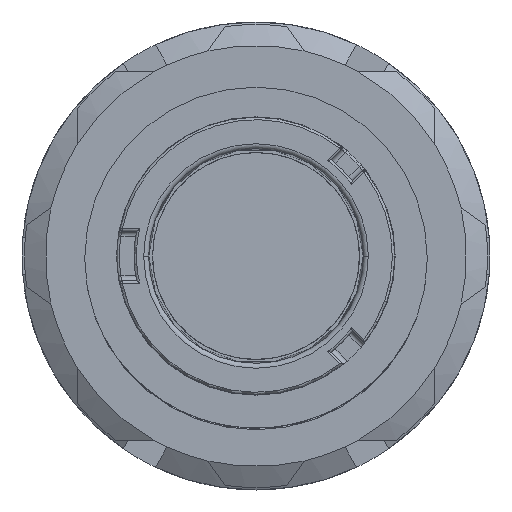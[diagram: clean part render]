
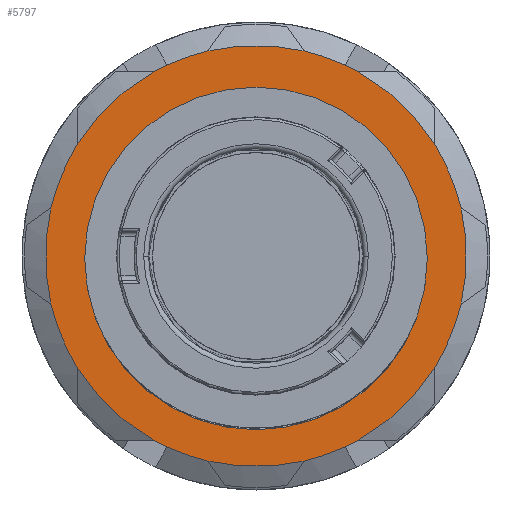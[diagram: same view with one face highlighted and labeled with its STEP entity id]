
A CAD part, left-side view. The second image highlights one B-rep face of the part: STEP entity #5797.
In plain terms, the highlighted planar face has unit normal (-1, 0, 0).
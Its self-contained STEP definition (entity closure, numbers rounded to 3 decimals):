
#1495=CARTESIAN_POINT('',(0.,9.4,
-9.4));
#1496=DIRECTION('',(1.,0.,0.));
#1497=DIRECTION('',(0.,0.85,0.527));
#1498=AXIS2_PLACEMENT_3D('',#1495,#1496,#1497);
#1500=CARTESIAN_POINT('',(0.,9.4,
-9.4));
#1501=DIRECTION('',(1.,0.,0.));
#1502=DIRECTION('',(0.,0.486,0.874));
#1503=AXIS2_PLACEMENT_3D('',#1500,#1501,#1502);
#1505=CARTESIAN_POINT('',(0.,9.4,
-9.4));
#1506=DIRECTION('',(1.,0.,0.));
#1507=DIRECTION('',(0.,0.228,0.974));
#1508=AXIS2_PLACEMENT_3D('',#1505,#1506,#1507);
#1510=CARTESIAN_POINT('',(0.,9.4,
-9.4));
#1511=DIRECTION('',(1.,0.,0.));
#1512=DIRECTION('',(0.,-0.228,0.974));
#1513=AXIS2_PLACEMENT_3D('',#1510,#1511,#1512);
#1515=CARTESIAN_POINT('',(0.,9.4,
-9.4));
#1516=DIRECTION('',(1.,0.,0.));
#1517=DIRECTION('',(0.,-0.486,0.874));
#1518=AXIS2_PLACEMENT_3D('',#1515,#1516,#1517);
#1520=CARTESIAN_POINT('',(0.,9.4,
-9.4));
#1521=DIRECTION('',(1.,0.,0.));
#1522=DIRECTION('',(0.,-0.85,0.527));
#1523=AXIS2_PLACEMENT_3D('',#1520,#1521,#1522);
#1525=CARTESIAN_POINT('',(0.,9.4,
-9.4));
#1526=DIRECTION('',(1.,0.,0.));
#1527=DIRECTION('',(0.,-0.974,0.228));
#1528=AXIS2_PLACEMENT_3D('',#1525,#1526,#1527);
#1530=CARTESIAN_POINT('',(0.,9.4,
-9.4));
#1531=DIRECTION('',(1.,0.,0.));
#1532=DIRECTION('',(0.,-0.974,-0.228));
#1533=AXIS2_PLACEMENT_3D('',#1530,#1531,#1532);
#1535=CARTESIAN_POINT('',(0.,9.4,
-9.4));
#1536=DIRECTION('',(1.,0.,0.));
#1537=DIRECTION('',(0.,-0.85,-0.527));
#1538=AXIS2_PLACEMENT_3D('',#1535,#1536,#1537);
#1540=CARTESIAN_POINT('',(0.,9.4,
-9.4));
#1541=DIRECTION('',(1.,0.,0.));
#1542=DIRECTION('',(0.,-0.486,-0.874));
#1543=AXIS2_PLACEMENT_3D('',#1540,#1541,#1542);
#1545=CARTESIAN_POINT('',(0.,9.4,
-9.4));
#1546=DIRECTION('',(1.,0.,0.));
#1547=DIRECTION('',(0.,-0.228,-0.974));
#1548=AXIS2_PLACEMENT_3D('',#1545,#1546,#1547);
#1550=CARTESIAN_POINT('',(0.,9.4,
-9.4));
#1551=DIRECTION('',(1.,0.,0.));
#1552=DIRECTION('',(0.,0.228,-0.974));
#1553=AXIS2_PLACEMENT_3D('',#1550,#1551,#1552);
#1555=CARTESIAN_POINT('',(0.,9.4,
-9.4));
#1556=DIRECTION('',(1.,0.,0.));
#1557=DIRECTION('',(0.,0.486,-0.874));
#1558=AXIS2_PLACEMENT_3D('',#1555,#1556,#1557);
#1560=CARTESIAN_POINT('',(0.,9.4,
-9.4));
#1561=DIRECTION('',(1.,0.,0.));
#1562=DIRECTION('',(0.,0.85,-0.527));
#1563=AXIS2_PLACEMENT_3D('',#1560,#1561,#1562);
#1565=CARTESIAN_POINT('',(0.,9.4,
-9.4));
#1566=DIRECTION('',(1.,0.,0.));
#1567=DIRECTION('',(0.,0.974,-0.228));
#1568=AXIS2_PLACEMENT_3D('',#1565,#1566,#1567);
#1570=CARTESIAN_POINT('',(0.,9.4,
-9.4));
#1571=DIRECTION('',(1.,0.,0.));
#1572=DIRECTION('',(0.,0.974,0.228));
#1573=AXIS2_PLACEMENT_3D('',#1570,#1571,#1572);
#1575=CARTESIAN_POINT('',(0.,9.4,-9.5));
#1576=DIRECTION('',(-1.,0.,0.));
#1577=DIRECTION('',(0.,-1.,0.));
#1578=AXIS2_PLACEMENT_3D('',#1575,#1576,#1577);
#1580=CARTESIAN_POINT('',(0.,9.4,-9.5));
#1581=DIRECTION('',(-1.,0.,0.));
#1582=DIRECTION('',(0.,1.,0.));
#1583=AXIS2_PLACEMENT_3D('',#1580,#1581,#1582);
#3848=CARTESIAN_POINT('',(0.,11.35,
-1.075));
#3850=VERTEX_POINT('',#3848);
#3851=CARTESIAN_POINT('',(0.,13.556,
-1.928));
#3852=VERTEX_POINT('',#3851);
#3857=CARTESIAN_POINT('',(0.,7.45,
-1.075));
#3858=VERTEX_POINT('',#3857);
#3861=CARTESIAN_POINT('',(0.,16.665,
-4.892));
#3862=VERTEX_POINT('',#3861);
#3863=CARTESIAN_POINT('',(0.,5.243,
-1.928));
#3864=VERTEX_POINT('',#3863);
#3865=CARTESIAN_POINT('',(0.,2.134,
-4.892));
#3866=VERTEX_POINT('',#3865);
#3867=CARTESIAN_POINT('',(0.,1.075,
-7.45));
#3868=VERTEX_POINT('',#3867);
#3869=CARTESIAN_POINT('',(0.,1.075,
-11.35));
#3870=VERTEX_POINT('',#3869);
#3871=CARTESIAN_POINT('',(0.,2.134,
-13.907));
#3872=VERTEX_POINT('',#3871);
#3873=CARTESIAN_POINT('',(0.,5.243,
-16.871));
#3874=VERTEX_POINT('',#3873);
#3875=CARTESIAN_POINT('',(0.,7.45,
-17.724));
#3876=VERTEX_POINT('',#3875);
#3877=CARTESIAN_POINT('',(0.,11.35,
-17.724));
#3878=VERTEX_POINT('',#3877);
#3879=CARTESIAN_POINT('',(0.,13.556,
-16.871));
#3880=VERTEX_POINT('',#3879);
#3881=CARTESIAN_POINT('',(0.,16.665,
-13.907));
#3882=VERTEX_POINT('',#3881);
#3883=CARTESIAN_POINT('',(0.,17.724,
-11.35));
#3884=VERTEX_POINT('',#3883);
#3885=CARTESIAN_POINT('',(0.,17.724,
-7.45));
#3886=VERTEX_POINT('',#3885);
#3887=CARTESIAN_POINT('',(0.,2.446,-9.5));
#3888=CARTESIAN_POINT('',(0.,16.354,-9.5));
#3889=VERTEX_POINT('',#3887);
#3890=VERTEX_POINT('',#3888);
#5754=CARTESIAN_POINT('',(0.,9.4,
-9.4));
#5755=DIRECTION('',(1.,0.,0.));
#5756=DIRECTION('',(0.,-1.,0.));
#5757=AXIS2_PLACEMENT_3D('',#5754,#5755,#5756);
#5758=PLANE('',#5757);
#5760=ORIENTED_EDGE('',*,*,#5759,.T.);
#5761=ORIENTED_EDGE('',*,*,#5724,.T.);
#5762=ORIENTED_EDGE('',*,*,#5744,.T.);
#5764=ORIENTED_EDGE('',*,*,#5763,.T.);
#5766=ORIENTED_EDGE('',*,*,#5765,.T.);
#5768=ORIENTED_EDGE('',*,*,#5767,.T.);
#5770=ORIENTED_EDGE('',*,*,#5769,.T.);
#5772=ORIENTED_EDGE('',*,*,#5771,.T.);
#5774=ORIENTED_EDGE('',*,*,#5773,.T.);
#5776=ORIENTED_EDGE('',*,*,#5775,.T.);
#5778=ORIENTED_EDGE('',*,*,#5777,.T.);
#5780=ORIENTED_EDGE('',*,*,#5779,.T.);
#5782=ORIENTED_EDGE('',*,*,#5781,.T.);
#5784=ORIENTED_EDGE('',*,*,#5783,.T.);
#5786=ORIENTED_EDGE('',*,*,#5785,.T.);
#5788=ORIENTED_EDGE('',*,*,#5787,.T.);
#5789=EDGE_LOOP('',(#5760,#5761,#5762,#5764,#5766,#5768,#5770,#5772,#5774,#5776,
#5778,#5780,#5782,#5784,#5786,#5788));
#5790=FACE_OUTER_BOUND('',#5789,.F.);
#5792=ORIENTED_EDGE('',*,*,#5791,.T.);
#5794=ORIENTED_EDGE('',*,*,#5793,.T.);
#5795=EDGE_LOOP('',(#5792,#5794));
#5796=FACE_BOUND('',#5795,.F.);
#1499=CIRCLE('',#1498,8.55);
#1504=CIRCLE('',#1503,8.55);
#1509=CIRCLE('',#1508,8.55);
#1514=CIRCLE('',#1513,8.55);
#1519=CIRCLE('',#1518,8.55);
#1524=CIRCLE('',#1523,8.55);
#1529=CIRCLE('',#1528,8.55);
#1534=CIRCLE('',#1533,8.55);
#1539=CIRCLE('',#1538,8.55);
#1544=CIRCLE('',#1543,8.55);
#1549=CIRCLE('',#1548,8.55);
#1554=CIRCLE('',#1553,8.55);
#1559=CIRCLE('',#1558,8.55);
#1564=CIRCLE('',#1563,8.55);
#1569=CIRCLE('',#1568,8.55);
#1574=CIRCLE('',#1573,8.55);
#1579=CIRCLE('',#1578,6.954);
#1584=CIRCLE('',#1583,6.954);
#5724=EDGE_CURVE('',#3852,#3850,#1504,.T.);
#5744=EDGE_CURVE('',#3850,#3858,#1509,.T.);
#5759=EDGE_CURVE('',#3862,#3852,#1499,.T.);
#5763=EDGE_CURVE('',#3858,#3864,#1514,.T.);
#5765=EDGE_CURVE('',#3864,#3866,#1519,.T.);
#5767=EDGE_CURVE('',#3866,#3868,#1524,.T.);
#5769=EDGE_CURVE('',#3868,#3870,#1529,.T.);
#5771=EDGE_CURVE('',#3870,#3872,#1534,.T.);
#5773=EDGE_CURVE('',#3872,#3874,#1539,.T.);
#5775=EDGE_CURVE('',#3874,#3876,#1544,.T.);
#5777=EDGE_CURVE('',#3876,#3878,#1549,.T.);
#5779=EDGE_CURVE('',#3878,#3880,#1554,.T.);
#5781=EDGE_CURVE('',#3880,#3882,#1559,.T.);
#5783=EDGE_CURVE('',#3882,#3884,#1564,.T.);
#5785=EDGE_CURVE('',#3884,#3886,#1569,.T.);
#5787=EDGE_CURVE('',#3886,#3862,#1574,.T.);
#5791=EDGE_CURVE('',#3889,#3890,#1579,.T.);
#5793=EDGE_CURVE('',#3890,#3889,#1584,.T.);
#5797=ADVANCED_FACE('',(#5790,#5796),#5758,.F.);
